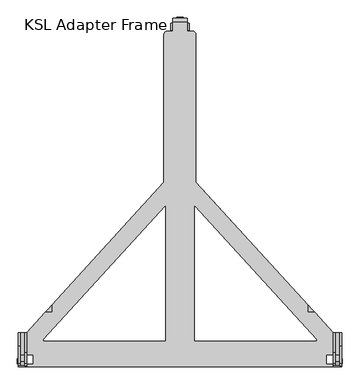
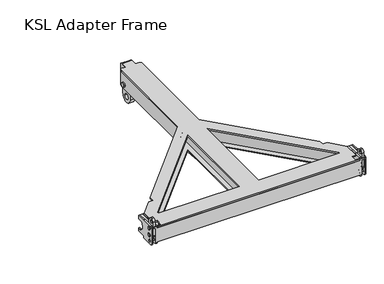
"""IFC4 building model written with IfcOpenShell, lengths in millimetres: proxy geometry, d&b SL-Series KSL Adapter Frame : KSL Adapter Frame."""

from ifc_helpers import new_model, si_unit, point, frame, frame_2d, origin, place, context, project, spatial, polyline, circle_curve, trimmed, segment, composite_curve, outline, extrude, source, transform, mapped, element, save
from ifc_brep_helpers import plane_surface, cylinder_surface, revolved_surface, advanced_brep


def ksl_adapter_frame_febc720b(model_context):
    return source(origin(), model_context, "Body", "SolidModel", [
        extrude(outline(composite_curve([segment(polyline([(23.8849766, 127.0), (23.8849766, 69.0)]), True, "CONTINUOUS"), segment(trimmed(circle_curve(frame_2d((11.8849766, 69.0)), 12.0), [point((23.8849766, 69.0))], [point((11.8849766, 57.0))], False, "CARTESIAN"), True, "CONTINUOUS"), segment(polyline([(11.8849766, 57.0), (6.8849766, 57.0)]), True, "CONTINUOUS"), segment(trimmed(circle_curve(frame_2d((6.8849766, 69.0)), 12.0), [point((6.8849766, 57.0))], [point((-5.1150234, 69.0))], False, "CARTESIAN"), True, "CONTINUOUS"), segment(polyline([(-5.1150234, 69.0), (-5.1150234, 132.0165791)]), True, "CONTINUOUS"), segment(trimmed(circle_curve(frame_2d((6.8849766, 132.0165791)), 12.0), [point((-5.1150234, 132.0165791))], [point((6.9247006, 144.0165134))], False, "CARTESIAN"), True, "CONTINUOUS"), segment(trimmed(circle_curve(frame_2d((6.86837, 127.0)), 17.0166066), [point((6.9247006, 144.0165134))], [point((23.8849766, 127.0))], False, "CARTESIAN"), True, "CONTINUOUS")], self_intersect=False), holes=[composite_curve([segment(trimmed(circle_curve(frame_2d((6.8733645, 69.9972931)), 5.15), [point((12.0233645, 69.9972931))], [point((1.7233645, 69.9972931))], True, "CARTESIAN"), True, "CONTINUOUS"), segment(trimmed(circle_curve(frame_2d((6.8733645, 69.9972931)), 5.15), [point((1.7233645, 69.9972931))], [point((12.0233645, 69.9972931))], True, "CARTESIAN"), True, "CONTINUOUS")], self_intersect=False), composite_curve([segment(trimmed(circle_curve(frame_2d((6.8849766, 132.0)), 5.15), [point((12.0349766, 132.0))], [point((1.7349766, 132.0))], True, "CARTESIAN"), True, "CONTINUOUS"), segment(polyline([(1.7349766, 132.0), (1.7349766, 130.0)]), True, "CONTINUOUS"), segment(trimmed(circle_curve(frame_2d((6.8849766, 130.0)), 5.15), [point((1.7349766, 130.0))], [point((12.0349766, 130.0))], True, "CARTESIAN"), True, "CONTINUOUS"), segment(polyline([(12.0349766, 130.0), (12.0349766, 132.0)]), True, "CONTINUOUS")], self_intersect=False)]), frame((1458.5, 0.0, 0.0), z_axis=(1.0, 0.0, 0.0), x_axis=(0.0, 1.0, 0.0)), (0.0, 0.0, 1.0), 10.0),
        extrude(outline(composite_curve([segment(trimmed(circle_curve(frame_2d((6.8733645, 100.9643839)), 7.2), [point((-0.3266355, 100.9643839))], [point((14.0733645, 100.9643839))], False, "CARTESIAN"), True, "CONTINUOUS"), segment(trimmed(circle_curve(frame_2d((6.8733645, 100.9643839)), 7.2), [point((14.0733645, 100.9643839))], [point((-0.3266355, 100.9643839))], False, "CARTESIAN"), True, "CONTINUOUS")], self_intersect=False)), frame((1475.75, 0.0, 0.0), z_axis=(1.0, 0.0, 0.0), x_axis=(0.0, 1.0, 0.0)), (0.0, 0.0, 1.0), 2.5),
        extrude(outline(composite_curve([segment(trimmed(circle_curve(frame_2d((6.8733645, 69.953061)), 7.2), [point((-0.3266355, 69.953061))], [point((14.0733645, 69.953061))], False, "CARTESIAN"), True, "CONTINUOUS"), segment(trimmed(circle_curve(frame_2d((6.8733645, 69.953061)), 7.2), [point((14.0733645, 69.953061))], [point((-0.3266355, 69.953061))], False, "CARTESIAN"), True, "CONTINUOUS")], self_intersect=False)), frame((1475.75, 0.0, 0.0), z_axis=(1.0, 0.0, 0.0), x_axis=(0.0, 1.0, 0.0)), (0.0, 0.0, 1.0), 2.5),
        extrude(outline(composite_curve([segment(polyline([(23.8849766, 127.0), (23.8849766, 69.0)]), True, "CONTINUOUS"), segment(trimmed(circle_curve(frame_2d((11.8849766, 69.0)), 12.0), [point((23.8849766, 69.0))], [point((11.8849766, 57.0))], False, "CARTESIAN"), True, "CONTINUOUS"), segment(polyline([(11.8849766, 57.0), (6.8849766, 57.0)]), True, "CONTINUOUS"), segment(trimmed(circle_curve(frame_2d((6.8849766, 69.0)), 12.0), [point((6.8849766, 57.0))], [point((-5.1150234, 69.0))], False, "CARTESIAN"), True, "CONTINUOUS"), segment(polyline([(-5.1150234, 69.0), (-5.1150234, 132.0165791)]), True, "CONTINUOUS"), segment(trimmed(circle_curve(frame_2d((6.8849766, 132.0165791)), 12.0), [point((-5.1150234, 132.0165791))], [point((6.9247006, 144.0165134))], False, "CARTESIAN"), True, "CONTINUOUS"), segment(trimmed(circle_curve(frame_2d((6.86837, 127.0)), 17.0166066), [point((6.9247006, 144.0165134))], [point((23.8849766, 127.0))], False, "CARTESIAN"), True, "CONTINUOUS")], self_intersect=False), holes=[composite_curve([segment(trimmed(circle_curve(frame_2d((6.8733645, 69.9972931)), 5.15), [point((12.0233645, 69.9972931))], [point((1.7233645, 69.9972931))], True, "CARTESIAN"), True, "CONTINUOUS"), segment(trimmed(circle_curve(frame_2d((6.8733645, 69.9972931)), 5.15), [point((1.7233645, 69.9972931))], [point((12.0233645, 69.9972931))], True, "CARTESIAN"), True, "CONTINUOUS")], self_intersect=False), composite_curve([segment(trimmed(circle_curve(frame_2d((6.8849766, 132.0)), 5.15), [point((12.0349766, 132.0))], [point((1.7349766, 132.0))], True, "CARTESIAN"), True, "CONTINUOUS"), segment(polyline([(1.7349766, 132.0), (1.7349766, 130.0)]), True, "CONTINUOUS"), segment(trimmed(circle_curve(frame_2d((6.8849766, 130.0)), 5.15), [point((1.7349766, 130.0))], [point((12.0349766, 130.0))], True, "CARTESIAN"), True, "CONTINUOUS"), segment(polyline([(12.0349766, 130.0), (12.0349766, 132.0)]), True, "CONTINUOUS")], self_intersect=False)]), frame((531.5, 0.0, 0.0), z_axis=(1.0, 0.0, 0.0), x_axis=(0.0, 1.0, 0.0)), (0.0, 0.0, 1.0), 10.0),
        extrude(outline(composite_curve([segment(trimmed(circle_curve(frame_2d((990.8849766, 19.75)), 10.0), [point((1000.8849766, 19.75))], [point((980.8849766, 19.75))], False, "CARTESIAN"), True, "CONTINUOUS"), segment(trimmed(circle_curve(frame_2d((990.8849766, 19.75)), 10.0), [point((980.8849766, 19.75))], [point((1000.8849766, 19.75))], False, "CARTESIAN"), True, "CONTINUOUS")], self_intersect=False)), frame((1021.25, 0.0, 0.0), z_axis=(1.0, 0.0, 0.0), x_axis=(0.0, 1.0, 0.0)), (0.0, 0.0, 1.0), 6.0),
        extrude(outline(composite_curve([segment(trimmed(circle_curve(frame_2d((990.8849766, 19.75)), 10.0), [point((1000.8849766, 19.75))], [point((980.8849766, 19.75))], False, "CARTESIAN"), True, "CONTINUOUS"), segment(trimmed(circle_curve(frame_2d((990.8849766, 19.75)), 10.0), [point((980.8849766, 19.75))], [point((1000.8849766, 19.75))], False, "CARTESIAN"), True, "CONTINUOUS")], self_intersect=False)), frame((972.75, 0.0, 0.0), z_axis=(1.0, 0.0, 0.0), x_axis=(0.0, 1.0, 0.0)), (0.0, 0.0, 1.0), 6.0),
        advanced_brep(
        [(1021.2819877, 499.5530699, 0.0), (1021.2819877, 1005.8849766, 0.0), (1021.2819877, 1015.8849766, 10.0), (1021.2819877, 1015.8849766, 100.0), (1021.2819877, 1005.8849766, 110.0), (1021.2819877, 1005.8849766, 104.0), (1021.2819877, -3.1150234, 104.0), (1021.2819877, -3.1150234, 41.0), (1021.2819877, 96.6349766, 41.0), (1021.2819877, 514.8849766, 41.0), (1021.2819877, 514.8849766, 37.0), (1021.2819877, 96.8849766, 37.0), (978.75, 499.5530699, 0.0), (978.75, 96.8849766, 37.0), (978.75, 514.8849766, 37.0), (978.75, 514.8849766, 41.0), (978.75, 96.6349766, 41.0), (978.75, -3.1150234, 41.0), (978.75, -3.1150234, 104.0), (978.75, 1005.8849766, 104.0), (978.75, 1005.8849766, 110.0), (978.75, 1015.8849766, 100.0), (978.75, 1015.8849766, 10.0), (978.75, 1005.8849766, 0.0), (990.0, 1005.8849766, 0.0), (990.0, 963.3849766, 0.0), (1010.0, 963.3849766, 0.0), (1010.0, 1005.8849766, 0.0), (1010.0, 1015.8849766, 10.0), (990.0, 1015.8849766, 10.0), (1010.0, 1015.8849766, 31.2064392), (990.0, 1015.8849766, 31.2064392), (1021.2819877, 514.8849766, 37.0), (978.75, 514.8849766, 37.0), (1021.2819877, 514.8849766, 41.0), (978.75, 514.8849766, 41.0), (548.75, -3.1150234, 104.0), (548.75, -9.1150234, 104.0), (1451.25, -9.1150234, 104.0), (1451.25, -3.1150234, 104.0), (1039.4163262, 501.7650377, 104.0), (1442.8195061, 60.0789221, 104.0), (1445.6508339, 62.9102499, 104.0), (1042.247654, 504.5963655, 104.0), (960.5836738, 501.7650377, 104.0), (957.752346, 504.5963655, 104.0), (554.3491661, 62.9102499, 104.0), (557.1804939, 60.0789221, 104.0), (1021.2819877, 96.6349766, 41.0), (978.7241721, 96.6349766, 41.0), (568.75, -3.1150234, 41.0), (568.75, -3.1150234, 37.0), (548.75, -3.1150234, 37.0), (548.75, -9.1150234, 110.0), (524.25, -9.1150234, 110.0), (524.25, -9.1150234, 36.0), (530.25, -9.1150234, 36.0), (530.25, -9.1150234, 104.0), (542.75, -9.1150234, 104.0), (542.75, -9.1150234, 36.0), (548.75, -9.1150234, 36.0), (548.75, -9.1150234, 37.0), (1451.25, -9.1150234, 37.0), (1451.25, -9.1150234, 36.0), (1457.25, -9.1150234, 36.0), (1457.25, -9.1150234, 104.0), (1469.75, -9.1150234, 104.0), (1469.75, -9.1150234, 36.0), (1475.75, -9.1150234, 36.0), (1475.75, -9.1150234, 110.0), (1451.25, -9.1150234, 110.0), (1451.25, -3.1150234, 37.0), (1431.25, -3.1150234, 37.0), (1431.25, -3.1150234, 41.0), (1039.4163262, 501.7650377, 41.0), (1442.8195061, 60.0789221, 41.0), (1445.6508339, 62.9102499, 41.0), (1042.247654, 504.5963655, 41.0), (960.5836738, 501.7650377, 41.0), (957.752346, 504.5963655, 41.0), (554.3491661, 62.9102499, 41.0), (557.1804939, 60.0789221, 41.0), (1010.0, 963.3849766, -40.25), (1010.0, 1018.3849766, -40.25), (1010.0, 1018.3849766, 19.75), (1010.0, 1003.1929564, -40.25), (1010.0, 978.5769968, -40.25), (990.0, 1018.3849766, 19.75), (990.0, 1018.3849766, -40.25), (990.0, 963.3849766, -40.25), (990.0, 1003.1929564, -40.25), (990.0, 978.5769968, -40.25), (1064.0, 514.8849766, 37.0), (1451.25, 90.8849766, 37.0), (1475.75, 90.8849766, 37.0), (1475.75, 50.6349766, 37.0), (1469.75, 50.6349766, 37.0), (1469.75, 24.8849766, 37.0), (1457.25, 24.8849766, 37.0), (1457.25, 50.6349766, 37.0), (1451.25, 50.6349766, 37.0), (1451.25, 24.8849766, 37.0), (1431.25, 24.8849766, 37.0), (568.75, 24.8849766, 37.0), (548.75, 24.8849766, 37.0), (548.75, 50.6349766, 37.0), (542.75, 50.6349766, 37.0), (542.75, 24.8849766, 37.0), (530.25, 24.8849766, 37.0), (530.25, 50.6349766, 37.0), (524.25, 50.6349766, 37.0), (524.25, 90.8849766, 37.0), (548.75, 90.8849766, 37.0), (936.0, 514.8849766, 37.0), (978.7180123, 96.6349766, 37.0), (1021.2819877, 96.6349766, 37.0), (1043.7383818, 462.927566, 37.0), (1043.7383818, 66.8849766, 37.0), (1401.25, 66.8849766, 37.0), (1401.25, 71.4881183, 37.0), (956.2616182, 462.927566, 37.0), (598.75, 71.4881183, 37.0), (598.75, 66.8849766, 37.0), (956.2616182, 66.8849766, 37.0), (1064.0, 514.8849766, 41.0), (1431.25, 24.8849766, 41.0), (1451.25, 24.8849766, 41.0), (1451.25, 90.8849766, 41.0), (1043.7383818, 462.927566, 41.0), (1401.25, 71.4881183, 41.0), (1401.25, 66.8849766, 41.0), (1043.7383818, 66.8849766, 41.0), (936.0, 514.8849766, 41.0), (548.75, 90.8849766, 41.0), (548.75, 24.8849766, 41.0), (568.75, 24.8849766, 41.0), (956.2616182, 462.927566, 41.0), (956.2616182, 66.8849766, 41.0), (598.75, 66.8849766, 41.0), (598.75, 71.4881183, 41.0), (542.75, 90.8849766, 41.0), (530.25, 90.8849766, 41.0), (530.25, 24.8849766, 41.0), (542.75, 24.8849766, 41.0), (1457.25, 24.8849766, 41.0), (1469.75, 24.8849766, 41.0), (1469.75, 90.8849766, 41.0), (1457.25, 90.8849766, 41.0), (542.75, 90.8849766, 51.0), (548.75, 90.8849766, 51.0), (524.25, 90.8849766, 51.0), (530.25, 90.8849766, 51.0), (1469.75, 90.8849766, 51.0), (1475.75, 90.8849766, 51.0), (1451.25, 90.8849766, 51.0), (1457.25, 90.8849766, 51.0), (1469.75, -6.2300558, 110.0), (1469.75, 0.9304496, 113.0), (1469.75, 50.6349766, 113.0), (1469.75, 50.6349766, 110.0), (1469.75, 90.8849766, 110.0), (1469.75, 90.8849766, 94.0), (1469.75, 80.8849766, 94.0), (1469.75, 80.8849766, 51.0), (1469.75, 50.6349766, 28.0), (1469.75, -1.1150234, 28.0), (1469.75, -5.1150234, 104.0), (1469.75, -5.1150234, 110.0), (1469.75, 1.7233645, 41.9375), (1469.75, 12.0233645, 41.9375), (1475.75, -1.1150234, 28.0), (1475.75, 50.6349766, 28.0), (1475.75, 80.8849766, 51.0), (1475.75, 80.8849766, 94.0), (1475.75, 90.8849766, 94.0), (1475.75, 90.8849766, 110.0), (1475.75, 50.6349766, 110.0), (1475.75, 50.6349766, 113.0), (1475.75, 0.9304496, 113.0), (1475.75, -6.2300558, 110.0), (1475.75, 1.7233645, 41.9375), (1475.75, 12.0233645, 41.9375), (1457.25, -5.1150234, 110.0), (1457.25, -6.2300558, 110.0), (1451.25, -6.2300558, 110.0), (1451.25, 0.9304496, 113.0), (1451.25, 31.6349766, 113.0), (1451.25, 31.6349766, 110.0), (1451.25, 90.8849766, 110.0), (1451.25, 90.8849766, 94.0), (1451.25, 80.8849766, 94.0), (1451.25, 80.8849766, 51.0), (1451.25, 50.6349766, 28.0), (1451.25, -1.1150234, 28.0), (1451.25, 1.7233645, 41.9375), (1451.25, 12.0233645, 41.9375), (1457.25, -1.1150234, 28.0), (1457.25, 50.6349766, 28.0), (1457.25, 80.8849766, 51.0), (1457.25, 80.8849766, 94.0), (1457.25, 90.8849766, 94.0), (1457.25, 90.8849766, 110.0), (1457.25, 31.6349766, 110.0), (1457.25, 31.6349766, 113.0), (1457.25, 0.9304496, 113.0), (1457.25, -5.1150234, 104.0), (1457.25, 1.7233645, 41.9375), (1457.25, 12.0233645, 41.9375), (548.75, -1.1150234, 28.0), (548.75, 50.6349766, 28.0), (548.75, 80.8849766, 51.0), (548.75, 80.8849766, 94.0), (548.75, 90.8849766, 94.0), (548.75, 90.8849766, 110.0), (548.75, 31.6349766, 110.0), (548.75, 31.6349766, 113.0), (548.75, 0.9304496, 113.0), (548.75, -6.2300558, 110.0), (548.75, 1.7233645, 41.9375), (548.75, 12.0233645, 41.9375), (542.75, -6.2300558, 110.0), (542.75, 0.9304496, 113.0), (542.75, 31.6349766, 113.0), (542.75, 31.6349766, 110.0), (542.75, 90.8849766, 110.0), (542.75, 90.8849766, 94.0), (542.75, 80.8849766, 94.0), (542.75, 80.8849766, 51.0), (542.75, 50.6349766, 28.0), (542.75, -1.1150234, 28.0), (542.75, -5.1150234, 104.0), (542.75, -5.1150234, 110.0), (542.75, 1.7233645, 41.9375), (542.75, 12.0233645, 41.9375), (530.25, -5.1150234, 110.0), (530.25, -6.2300558, 110.0), (524.25, -6.2300558, 110.0), (530.25, -1.1150234, 28.0), (530.25, 50.6349766, 28.0), (530.25, 80.8849766, 51.0), (530.25, 80.8849766, 94.0), (530.25, 90.8849766, 94.0), (530.25, 90.8849766, 110.0), (530.25, 50.6349766, 110.0), (530.25, 50.6349766, 113.0), (530.25, 0.9304496, 113.0), (530.25, -5.1150234, 104.0), (530.25, 1.7233645, 41.9375), (530.25, 12.0233645, 41.9375), (524.25, 0.9304496, 113.0), (524.25, 50.6349766, 113.0), (524.25, 50.6349766, 110.0), (524.25, 90.8849766, 110.0), (524.25, 90.8849766, 94.0), (524.25, 80.8849766, 94.0), (524.25, 80.8849766, 51.0), (524.25, 50.6349766, 28.0), (524.25, -1.1150234, 28.0), (524.25, 1.7233645, 41.9375), (524.25, 12.0233645, 41.9375)],
        [
            (0, 1),
            (1, 2, circle_curve(frame((1021.2819877, 1005.8849766, 10.0), z_axis=(1.0, 0.0, 0.0), x_axis=(0.0, -1.0, 0.0)), 10.0)),
            (2, 3),
            (3, 4, circle_curve(frame((1021.2819877, 1005.8849766, 100.0), z_axis=(1.0, 0.0, 0.0), x_axis=(0.0, -1.0, 0.0)), 10.0)),
            (4, 5),
            (5, 6),
            (6, 7),
            (7, 8),
            (8, 9),
            (9, 10),
            (10, 11),
            (11, 0),
            (12, 13),
            (13, 14),
            (14, 15),
            (15, 16),
            (16, 17),
            (17, 18),
            (18, 19),
            (19, 20),
            (20, 21, circle_curve(frame((978.75, 1005.8849766, 100.0), z_axis=(-1.0, 0.0, 0.0), x_axis=(0.0, -1.0, 0.0)), 10.0)),
            (21, 22),
            (22, 23, circle_curve(frame((978.75, 1005.8849766, 10.0), z_axis=(-1.0, 0.0, 0.0), x_axis=(0.0, -1.0, 0.0)), 10.0)),
            (23, 12),
            (0, 12),
            (23, 24),
            (24, 25),
            (25, 26),
            (26, 27),
            (27, 1),
            (27, 28, circle_curve(frame((1010.0, 1005.8849766, 10.0), z_axis=(1.0, 0.0, 0.0), x_axis=(0.0, -1.0, 0.0)), 10.0)),
            (28, 2),
            (22, 29),
            (29, 24, circle_curve(frame((990.0, 1005.8849766, 10.0), z_axis=(-1.0, 0.0, 0.0), x_axis=(0.0, -1.0, 0.0)), 10.0)),
            (28, 30),
            (30, 31),
            (31, 29),
            (21, 3),
            (20, 4),
            (19, 5),
            (11, 13),
            (11, 32),
            (32, 33),
            (33, 13),
            (32, 34),
            (34, 35),
            (35, 33),
            (18, 36),
            (36, 37),
            (37, 38),
            (38, 39),
            (39, 6),
            (40, 41),
            (41, 42),
            (42, 43),
            (43, 40),
            (44, 45),
            (45, 46),
            (46, 47),
            (47, 44),
            (34, 48),
            (48, 49),
            (49, 35),
            (17, 50),
            (50, 51),
            (51, 52),
            (52, 36),
            (37, 53),
            (53, 54),
            (54, 55),
            (55, 56),
            (56, 57),
            (57, 58),
            (58, 59),
            (59, 60),
            (60, 61),
            (61, 62),
            (62, 63),
            (63, 64),
            (64, 65),
            (65, 66),
            (66, 67),
            (67, 68),
            (68, 69),
            (69, 70),
            (70, 38),
            (39, 71),
            (71, 72),
            (72, 73),
            (73, 7),
            (40, 74),
            (74, 75),
            (75, 41),
            (75, 76),
            (76, 42),
            (76, 77),
            (77, 43),
            (77, 74),
            (44, 78),
            (78, 79),
            (79, 45),
            (79, 80),
            (80, 46),
            (80, 81),
            (81, 47),
            (81, 78),
            (82, 83, circle_curve(frame((1010.0, 990.8849766, -40.25), z_axis=(1.0, 0.0, 0.0), x_axis=(0.0, -1.0, 0.0)), 27.5)),
            (83, 84),
            (84, 30, circle_curve(frame((1010.0, 990.8849766, 19.75), z_axis=(1.0, 0.0, 0.0), x_axis=(0.0, -1.0, 0.0)), 27.5)),
            (26, 82),
            (85, 86, circle_curve(frame((1010.0, 990.8849766, -40.25), z_axis=(-1.0, 0.0, 0.0), x_axis=(0.0, -1.0, 0.0)), 12.3079798)),
            (86, 85, circle_curve(frame((1010.0, 990.8849766, -40.25), z_axis=(-1.0, 0.0, 0.0), x_axis=(0.0, -1.0, 0.0)), 12.3079798)),
            (87, 88),
            (88, 89, circle_curve(frame((990.0, 990.8849766, -40.25), z_axis=(-1.0, 0.0, 0.0), x_axis=(0.0, -1.0, 0.0)), 27.5)),
            (89, 25),
            (31, 87, circle_curve(frame((990.0, 990.8849766, 19.75), z_axis=(-1.0, 0.0, 0.0), x_axis=(0.0, -1.0, 0.0)), 27.5)),
            (90, 91, circle_curve(frame((990.0, 990.8849766, -40.25), z_axis=(1.0, 0.0, 0.0), x_axis=(0.0, -1.0, 0.0)), 12.3079798)),
            (91, 90, circle_curve(frame((990.0, 990.8849766, -40.25), z_axis=(1.0, 0.0, 0.0), x_axis=(0.0, -1.0, 0.0)), 12.3079798)),
            (89, 82),
            (88, 83),
            (87, 84),
            (85, 90),
            (91, 86),
            (92, 93),
            (93, 94),
            (94, 95),
            (95, 96),
            (96, 97),
            (97, 98),
            (98, 99),
            (99, 100),
            (100, 101),
            (101, 102),
            (102, 72),
            (71, 62),
            (61, 52),
            (51, 103),
            (103, 104),
            (104, 105),
            (105, 106),
            (106, 107),
            (107, 108),
            (108, 109),
            (109, 110),
            (110, 111),
            (111, 112),
            (112, 113),
            (113, 14),
            (13, 114),
            (114, 115),
            (115, 11),
            (10, 92),
            (116, 117),
            (117, 118),
            (118, 119),
            (119, 116),
            (120, 121),
            (121, 122),
            (122, 123),
            (123, 120),
            (124, 9),
            (73, 125),
            (125, 126),
            (126, 127),
            (127, 124),
            (128, 129),
            (129, 130),
            (130, 131),
            (131, 128),
            (15, 132),
            (132, 133),
            (133, 134),
            (134, 135),
            (135, 50),
            (136, 137),
            (137, 138),
            (138, 139),
            (139, 136),
            (140, 141),
            (141, 142),
            (142, 143),
            (143, 140),
            (144, 145),
            (145, 146),
            (146, 147),
            (147, 144),
            (119, 129),
            (128, 116),
            (117, 131),
            (130, 118),
            (124, 92),
            (115, 48),
            (114, 49),
            (113, 132),
            (112, 133),
            (140, 148),
            (148, 149),
            (149, 133),
            (111, 150),
            (150, 151),
            (151, 141),
            (103, 135),
            (134, 104),
            (127, 93),
            (123, 137),
            (136, 120),
            (122, 138),
            (121, 139),
            (107, 143),
            (142, 108),
            (102, 125),
            (101, 126),
            (97, 145),
            (144, 98),
            (146, 152),
            (152, 153),
            (153, 94),
            (127, 154),
            (154, 155),
            (155, 147),
            (156, 157, circle_curve(frame((1469.75, 0.9304496, 102.954527), z_axis=(-1.0, 0.0, 0.0), x_axis=(0.0, 1.0, 0.0)), 10.045473)),
            (157, 158),
            (158, 159),
            (159, 160),
            (160, 161),
            (161, 162),
            (162, 163, circle_curve(frame((1469.75, 80.8849766, 72.5), z_axis=(1.0, 0.0, 0.0), x_axis=(0.0, -1.0, 0.0)), 21.5)),
            (163, 152),
            (96, 164),
            (164, 165),
            (165, 67, circle_curve(frame((1469.75, -1.1150234, 36.0), z_axis=(-1.0, 0.0, 0.0), x_axis=(0.0, 1.0, 0.0)), 8.0)),
            (66, 166),
            (166, 167),
            (167, 156),
            (168, 169, circle_curve(frame((1469.75, 6.8733645, 41.9375), z_axis=(1.0, 0.0, 0.0), x_axis=(0.0, 1.0, 0.0)), 5.15)),
            (169, 168, circle_curve(frame((1469.75, 6.8733645, 41.9375), z_axis=(1.0, 0.0, 0.0), x_axis=(0.0, 1.0, 0.0)), 5.15)),
            (68, 170, circle_curve(frame((1475.75, -1.1150234, 36.0), z_axis=(1.0, 0.0, 0.0), x_axis=(0.0, 1.0, 0.0)), 8.0)),
            (170, 171),
            (171, 95),
            (153, 172),
            (172, 173, circle_curve(frame((1475.75, 80.8849766, 72.5), z_axis=(-1.0, 0.0, 0.0), x_axis=(0.0, -1.0, 0.0)), 21.5)),
            (173, 174),
            (174, 175),
            (175, 176),
            (176, 177),
            (177, 178),
            (178, 179, circle_curve(frame((1475.75, 0.9304496, 102.954527), z_axis=(1.0, 0.0, 0.0), x_axis=(0.0, 1.0, 0.0)), 10.045473)),
            (179, 69),
            (180, 181, circle_curve(frame((1475.75, 6.8733645, 41.9375), z_axis=(-1.0, 0.0, 0.0), x_axis=(0.0, 1.0, 0.0)), 5.15)),
            (181, 180, circle_curve(frame((1475.75, 6.8733645, 41.9375), z_axis=(-1.0, 0.0, 0.0), x_axis=(0.0, 1.0, 0.0)), 5.15)),
            (165, 170),
            (164, 171),
            (163, 172),
            (162, 173),
            (161, 174),
            (160, 175),
            (159, 176),
            (158, 177),
            (157, 178),
            (156, 179),
            (167, 182),
            (182, 183),
            (183, 184),
            (184, 70),
            (169, 181),
            (180, 168),
            (184, 185, circle_curve(frame((1451.25, 0.9304496, 102.954527), z_axis=(-1.0, 0.0, 0.0), x_axis=(0.0, 1.0, 0.0)), 10.045473)),
            (185, 186),
            (186, 187),
            (187, 188),
            (188, 189),
            (189, 190),
            (190, 191, circle_curve(frame((1451.25, 80.8849766, 72.5), z_axis=(1.0, 0.0, 0.0), x_axis=(0.0, -1.0, 0.0)), 21.5)),
            (191, 154),
            (100, 192),
            (192, 193),
            (193, 63, circle_curve(frame((1451.25, -1.1150234, 36.0), z_axis=(-1.0, 0.0, 0.0), x_axis=(0.0, 1.0, 0.0)), 8.0)),
            (194, 195, circle_curve(frame((1451.25, 6.8733645, 41.9375), z_axis=(1.0, 0.0, 0.0), x_axis=(0.0, 1.0, 0.0)), 5.15)),
            (195, 194, circle_curve(frame((1451.25, 6.8733645, 41.9375), z_axis=(1.0, 0.0, 0.0), x_axis=(0.0, 1.0, 0.0)), 5.15)),
            (64, 196, circle_curve(frame((1457.25, -1.1150234, 36.0), z_axis=(1.0, 0.0, 0.0), x_axis=(0.0, 1.0, 0.0)), 8.0)),
            (196, 197),
            (197, 99),
            (155, 198),
            (198, 199, circle_curve(frame((1457.25, 80.8849766, 72.5), z_axis=(-1.0, 0.0, 0.0), x_axis=(0.0, -1.0, 0.0)), 21.5)),
            (199, 200),
            (200, 201),
            (201, 202),
            (202, 203),
            (203, 204),
            (204, 183, circle_curve(frame((1457.25, 0.9304496, 102.954527), z_axis=(1.0, 0.0, 0.0), x_axis=(0.0, 1.0, 0.0)), 10.045473)),
            (182, 205),
            (205, 65),
            (206, 207, circle_curve(frame((1457.25, 6.8733645, 41.9375), z_axis=(-1.0, 0.0, 0.0), x_axis=(0.0, 1.0, 0.0)), 5.15)),
            (207, 206, circle_curve(frame((1457.25, 6.8733645, 41.9375), z_axis=(-1.0, 0.0, 0.0), x_axis=(0.0, 1.0, 0.0)), 5.15)),
            (193, 196),
            (192, 197),
            (191, 198),
            (190, 199),
            (189, 200),
            (188, 201),
            (187, 202),
            (186, 203),
            (185, 204),
            (195, 207),
            (206, 194),
            (205, 166),
            (60, 208, circle_curve(frame((548.75, -1.1150234, 36.0), z_axis=(1.0, 0.0, 0.0), x_axis=(0.0, 1.0, 0.0)), 8.0)),
            (208, 209),
            (209, 105),
            (149, 210),
            (210, 211, circle_curve(frame((548.75, 80.8849766, 72.5), z_axis=(-1.0, 0.0, 0.0), x_axis=(0.0, -1.0, 0.0)), 21.5)),
            (211, 212),
            (212, 213),
            (213, 214),
            (214, 215),
            (215, 216),
            (216, 217, circle_curve(frame((548.75, 0.9304496, 102.954527), z_axis=(1.0, 0.0, 0.0), x_axis=(0.0, 1.0, 0.0)), 10.045473)),
            (217, 53),
            (218, 219, circle_curve(frame((548.75, 6.8733645, 41.9375), z_axis=(-1.0, 0.0, 0.0), x_axis=(0.0, 1.0, 0.0)), 5.15)),
            (219, 218, circle_curve(frame((548.75, 6.8733645, 41.9375), z_axis=(-1.0, 0.0, 0.0), x_axis=(0.0, 1.0, 0.0)), 5.15)),
            (220, 221, circle_curve(frame((542.75, 0.9304496, 102.954527), z_axis=(-1.0, 0.0, 0.0), x_axis=(0.0, 1.0, 0.0)), 10.045473)),
            (221, 222),
            (222, 223),
            (223, 224),
            (224, 225),
            (225, 226),
            (226, 227, circle_curve(frame((542.75, 80.8849766, 72.5), z_axis=(1.0, 0.0, 0.0), x_axis=(0.0, -1.0, 0.0)), 21.5)),
            (227, 148),
            (106, 228),
            (228, 229),
            (229, 59, circle_curve(frame((542.75, -1.1150234, 36.0), z_axis=(-1.0, 0.0, 0.0), x_axis=(0.0, 1.0, 0.0)), 8.0)),
            (58, 230),
            (230, 231),
            (231, 220),
            (232, 233, circle_curve(frame((542.75, 6.8733645, 41.9375), z_axis=(1.0, 0.0, 0.0), x_axis=(0.0, 1.0, 0.0)), 5.15)),
            (233, 232, circle_curve(frame((542.75, 6.8733645, 41.9375), z_axis=(1.0, 0.0, 0.0), x_axis=(0.0, 1.0, 0.0)), 5.15)),
            (229, 208),
            (228, 209),
            (227, 210),
            (226, 211),
            (225, 212),
            (224, 213),
            (223, 214),
            (222, 215),
            (221, 216),
            (220, 217),
            (231, 234),
            (234, 235),
            (235, 236),
            (236, 54),
            (218, 232),
            (233, 219),
            (56, 237, circle_curve(frame((530.25, -1.1150234, 36.0), z_axis=(1.0, 0.0, 0.0), x_axis=(0.0, 1.0, 0.0)), 8.0)),
            (237, 238),
            (238, 109),
            (151, 239),
            (239, 240, circle_curve(frame((530.25, 80.8849766, 72.5), z_axis=(-1.0, 0.0, 0.0), x_axis=(0.0, -1.0, 0.0)), 21.5)),
            (240, 241),
            (241, 242),
            (242, 243),
            (243, 244),
            (244, 245),
            (245, 235, circle_curve(frame((530.25, 0.9304496, 102.954527), z_axis=(1.0, 0.0, 0.0), x_axis=(0.0, 1.0, 0.0)), 10.045473)),
            (234, 246),
            (246, 57),
            (247, 248, circle_curve(frame((530.25, 6.8733645, 41.9375), z_axis=(-1.0, 0.0, 0.0), x_axis=(0.0, 1.0, 0.0)), 5.15)),
            (248, 247, circle_curve(frame((530.25, 6.8733645, 41.9375), z_axis=(-1.0, 0.0, 0.0), x_axis=(0.0, 1.0, 0.0)), 5.15)),
            (236, 249, circle_curve(frame((524.25, 0.9304496, 102.954527), z_axis=(-1.0, 0.0, 0.0), x_axis=(0.0, 1.0, 0.0)), 10.045473)),
            (249, 250),
            (250, 251),
            (251, 252),
            (252, 253),
            (253, 254),
            (254, 255, circle_curve(frame((524.25, 80.8849766, 72.5), z_axis=(1.0, 0.0, 0.0), x_axis=(0.0, -1.0, 0.0)), 21.5)),
            (255, 150),
            (110, 256),
            (256, 257),
            (257, 55, circle_curve(frame((524.25, -1.1150234, 36.0), z_axis=(-1.0, 0.0, 0.0), x_axis=(0.0, 1.0, 0.0)), 8.0)),
            (258, 259, circle_curve(frame((524.25, 6.8733645, 41.9375), z_axis=(1.0, 0.0, 0.0), x_axis=(0.0, 1.0, 0.0)), 5.15)),
            (259, 258, circle_curve(frame((524.25, 6.8733645, 41.9375), z_axis=(1.0, 0.0, 0.0), x_axis=(0.0, 1.0, 0.0)), 5.15)),
            (257, 237),
            (256, 238),
            (255, 239),
            (254, 240),
            (253, 241),
            (252, 242),
            (251, 243),
            (250, 244),
            (249, 245),
            (247, 258),
            (259, 248),
            (246, 230),
        ],
        [
            plane_surface(frame((1021.2819877, 500.4700094, 0.0), z_axis=(1.0, 0.0, 0.0), x_axis=(0.0, 1.0, 0.0))),
            plane_surface(frame((978.75, 500.4700094, 0.0), z_axis=(-1.0, 0.0, 0.0), x_axis=(0.0, -1.0, 0.0))),
            plane_surface(frame((1021.2819877, 499.5530699, 0.0), z_axis=(0.0, 0.0, -1.0), x_axis=(-1.0, 0.0, 0.0))),
            cylinder_surface(frame((978.75, 1005.8849766, 10.0), z_axis=(1.0, 0.0, 0.0), x_axis=(0.0, -1.0, 0.0)), 10.0),
            plane_surface(frame((1021.2819877, 1015.8849766, 10.0), z_axis=(0.0, 1.0, 0.0), x_axis=(-1.0, 0.0, 0.0))),
            cylinder_surface(frame((978.75, 1005.8849766, 100.0), z_axis=(1.0, 0.0, 0.0), x_axis=(0.0, -1.0, 0.0)), 10.0),
            plane_surface(frame((1021.2819877, 1005.8849766, 110.0), z_axis=(0.0, -1.0, 0.0), x_axis=(-1.0, 0.0, 0.0))),
            plane_surface(frame((1021.2819877, 96.8849766, 37.0), z_axis=(0.0, -0.09150161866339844, -0.9958049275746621), x_axis=(-1.0, 0.0, 0.0))),
            plane_surface(frame((1021.2819877, 514.8849766, 37.0), z_axis=(0.0, 0.0, 1.0), x_axis=(-1.0, 0.0, 0.0))),
            plane_surface(frame((1021.2819877, 514.8849766, 41.0), z_axis=(0.0, -1.0, 0.0), x_axis=(-1.0, 0.0, 0.0))),
            plane_surface(frame((978.7180123, 96.6349766, 104.0), z_axis=(0.0, 0.0, 1.0), x_axis=(0.0, -1.0, 0.0))),
            plane_surface(frame((978.7180123, 96.6349766, 41.0), z_axis=(0.0, 0.0, -1.0), x_axis=(0.0, 1.0, 0.0))),
            plane_surface(frame((978.7180123, -3.1150234, 104.0), z_axis=(0.0, 1.0, 0.0), x_axis=(0.0, 0.0, -1.0))),
            plane_surface(frame((548.75, -9.1150234, 104.0), z_axis=(0.0, -1.0, 0.0), x_axis=(0.0, 0.0, -1.0))),
            plane_surface(frame((1451.25, -3.1150234, 104.0), z_axis=(0.0, 1.0, 0.0), x_axis=(0.0, 0.0, -1.0))),
            plane_surface(frame((1039.4163262, 501.7650377, 104.0), z_axis=(-0.7383818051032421, -0.6743829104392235, 0.0), x_axis=(0.0, 0.0, -1.0))),
            plane_surface(frame((1442.8195061, 60.0789221, 104.0), z_axis=(0.707106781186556, -0.7071067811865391, 0.0), x_axis=(0.0, 0.0, -1.0))),
            plane_surface(frame((1445.6508339, 62.9102499, 104.0), z_axis=(0.7383818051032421, 0.6743829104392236, 0.0), x_axis=(0.0, 0.0, -1.0))),
            plane_surface(frame((1042.247654, 504.5963655, 104.0), z_axis=(-0.7071067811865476, 0.7071067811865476, 0.0), x_axis=(0.0, 0.0, -1.0))),
            plane_surface(frame((960.5836738, 501.7650377, 104.0), z_axis=(0.7071067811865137, 0.7071067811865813, 0.0), x_axis=(0.0, 0.0, -1.0))),
            plane_surface(frame((957.752346, 504.5963655, 104.0), z_axis=(-0.7383818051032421, 0.6743829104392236, 0.0), x_axis=(0.0, 0.0, -1.0))),
            plane_surface(frame((554.3491661, 62.9102499, 104.0), z_axis=(-0.7071067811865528, -0.7071067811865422, 0.0), x_axis=(0.0, 0.0, -1.0))),
            plane_surface(frame((557.1804939, 60.0789221, 104.0), z_axis=(0.7383818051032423, -0.6743829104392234, 0.0), x_axis=(0.0, 0.0, -1.0))),
            plane_surface(frame((1010.0, 963.3849766, -40.25), z_axis=(1.0, 0.0, 0.0), x_axis=(0.0, 0.0, -1.0))),
            plane_surface(frame((990.0, 963.3849766, -40.25), z_axis=(-1.0, 0.0, 0.0), x_axis=(0.0, 0.0, 1.0))),
            plane_surface(frame((1010.0, 963.3849766, 19.75), z_axis=(0.0, -1.0, 0.0), x_axis=(-1.0, 0.0, 0.0))),
            cylinder_surface(frame((990.0, 990.8849766, -40.25), z_axis=(1.0, 0.0, 0.0), x_axis=(0.0, -1.0, 0.0)), 27.5),
            plane_surface(frame((1010.0, 1018.3849766, -40.25), z_axis=(0.0, 1.0, 0.0), x_axis=(-1.0, 0.0, 0.0))),
            cylinder_surface(frame((990.0, 990.8849766, 19.75), z_axis=(1.0, 0.0, 0.0), x_axis=(0.0, -1.0, 0.0)), 27.5),
            revolved_surface(polyline([(990.0, 978.5769968, -40.25), (1010.0, 978.5769968, -40.25)]), (1000.0, 990.8849766, -40.25), (-1.0, 0.0, 0.0)),
            plane_surface(frame((1400.9883818, 71.7745641, 37.0), z_axis=(0.0, 0.0, -1.0), x_axis=(-0.674382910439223, 0.7383818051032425, 0.0))),
            plane_surface(frame((1400.9883818, 71.7745641, 41.0), z_axis=(0.0, 0.0, 1.0), x_axis=(0.674382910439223, -0.7383818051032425, 0.0))),
            plane_surface(frame((1043.7383818, 462.927566, 41.0), z_axis=(-0.7383818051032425, -0.674382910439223, 0.0), x_axis=(0.0, 0.0, -1.0))),
            plane_surface(frame((1401.25, 66.8849766, 41.0), z_axis=(0.0, 1.0, 0.0), x_axis=(0.0, 0.0, -1.0))),
            plane_surface(frame((1043.7383818, 66.8849766, 41.0), z_axis=(1.0, 0.0, 0.0), x_axis=(0.0, 0.0, -1.0))),
            plane_surface(frame((1064.0, 514.8849766, 41.0), z_axis=(0.0, 1.0, 0.0), x_axis=(0.0, 0.0, -1.0))),
            plane_surface(frame((1021.2819877, 514.8849766, 41.0), z_axis=(-1.0, 0.0, 0.0), x_axis=(0.0, 0.0, -1.0))),
            plane_surface(frame((1021.2819877, 96.6349766, 41.0), z_axis=(0.0, 1.0, 0.0), x_axis=(0.0, 0.0, -1.0))),
            plane_surface(frame((978.7180123, 96.6349766, 41.0), z_axis=(1.0, 0.0, 0.0), x_axis=(0.0, 0.0, -1.0))),
            plane_surface(frame((978.7180123, 514.8849766, 41.0), z_axis=(0.0, 1.0, 0.0), x_axis=(0.0, 0.0, -1.0))),
            plane_surface(frame((936.0, 514.8849766, 41.0), z_axis=(-0.7383818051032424, 0.6743829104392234, 0.0), x_axis=(0.0, 0.0, -1.0))),
            plane_surface(frame((542.75, 90.8849766, 41.0), z_axis=(0.0, 1.0, 0.0), x_axis=(0.0, 0.0, -1.0))),
            plane_surface(frame((548.75, 24.8849766, 41.0), z_axis=(0.0, -1.0, 0.0), x_axis=(0.0, 0.0, -1.0))),
            plane_surface(frame((568.75, 24.8849766, 41.0), z_axis=(-1.0, 0.0, 0.0), x_axis=(0.0, 0.0, -1.0))),
            plane_surface(frame((1451.25, 90.8849766, 41.0), z_axis=(0.7383818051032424, 0.6743829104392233, 0.0), x_axis=(0.0, 0.0, -1.0))),
            plane_surface(frame((956.2616182, 462.927566, 41.0), z_axis=(-1.0, 0.0, 0.0), x_axis=(0.0, 0.0, -1.0))),
            plane_surface(frame((956.2616182, 66.8849766, 41.0), z_axis=(0.0, 1.0, 0.0), x_axis=(0.0, 0.0, -1.0))),
            plane_surface(frame((598.75, 66.8849766, 41.0), z_axis=(1.0, 0.0, 0.0), x_axis=(0.0, 0.0, -1.0))),
            plane_surface(frame((598.75, 71.4881183, 41.0), z_axis=(0.7383818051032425, -0.674382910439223, 0.0), x_axis=(0.0, 0.0, -1.0))),
            plane_surface(frame((530.25, 24.8849766, 41.0), z_axis=(0.0, -1.0, 0.0), x_axis=(0.0, 0.0, -1.0))),
            plane_surface(frame((1401.25, 71.4881183, 41.0), z_axis=(-1.0, 0.0, 0.0), x_axis=(0.0, 0.0, -1.0))),
            plane_surface(frame((1431.25, -3.1150234, 41.0), z_axis=(1.0, 0.0, 0.0), x_axis=(0.0, 0.0, -1.0))),
            plane_surface(frame((1431.25, 24.8849766, 41.0), z_axis=(0.0, -1.0, 0.0), x_axis=(0.0, 0.0, -1.0))),
            plane_surface(frame((1457.25, 24.8849766, 41.0), z_axis=(0.0, -1.0, 0.0), x_axis=(0.0, 0.0, -1.0))),
            plane_surface(frame((1469.75, 90.8849766, 41.0), z_axis=(0.0, 1.0, 0.0), x_axis=(0.0, 0.0, -1.0))),
            plane_surface(frame((1469.75, -9.1150234, 103.0), z_axis=(-1.0, 0.0, 0.0), x_axis=(0.0, 0.0, 1.0))),
            plane_surface(frame((1475.75, -9.1150234, 103.0), z_axis=(1.0, 0.0, 0.0), x_axis=(0.0, 0.0, -1.0))),
            cylinder_surface(frame((1475.75, -1.1150234, 36.0), z_axis=(-1.0, 0.0, 0.0), x_axis=(0.0, 1.0, 0.0)), 8.0),
            plane_surface(frame((1469.75, 50.6349766, 28.0), z_axis=(0.0, 0.0, -1.0), x_axis=(1.0, 0.0, 0.0))),
            plane_surface(frame((1469.75, 50.6349766, 37.0), z_axis=(0.0, 1.0, 0.0), x_axis=(1.0, 0.0, 0.0))),
            plane_surface(frame((1469.75, 80.8849766, 51.0), z_axis=(0.0, 0.0, 1.0), x_axis=(1.0, 0.0, 0.0))),
            revolved_surface(polyline([(1475.75, 59.3849766, 72.5), (1469.75, 59.3849766, 72.5)]), (1475.75, 80.8849766, 72.5), (1.0, 0.0, 0.0)),
            plane_surface(frame((1469.75, 90.8849766, 94.0), z_axis=(0.0, 0.0, -1.0), x_axis=(1.0, 0.0, 0.0))),
            plane_surface(frame((1469.75, 90.8849766, 110.0), z_axis=(0.0, 1.0, 0.0), x_axis=(1.0, 0.0, 0.0))),
            plane_surface(frame((1469.75, 50.6349766, 110.0), z_axis=(0.0, 0.0, 1.0), x_axis=(1.0, 0.0, 0.0))),
            plane_surface(frame((1469.75, 50.6349766, 113.0), z_axis=(0.0, 1.0, 0.0), x_axis=(1.0, 0.0, 0.0))),
            plane_surface(frame((1469.75, 0.9304496, 113.0), z_axis=(0.0, 0.0, 1.0), x_axis=(1.0, 0.0, 0.0))),
            cylinder_surface(frame((1475.75, 0.9304496, 102.954527), z_axis=(-1.0, 0.0, 0.0), x_axis=(0.0, 1.0, 0.0)), 10.045473),
            plane_surface(frame((1469.75, -9.1150234, 110.0), z_axis=(0.0, 0.0, 1.0), x_axis=(1.0, 0.0, 0.0))),
            revolved_surface(polyline([(1475.75, 12.0233645, 41.9375), (1469.75, 12.0233645, 41.9375)]), (1475.75, 6.8733645, 41.9375), (1.0, 0.0, 0.0)),
            plane_surface(frame((1451.25, -9.1150234, 103.0), z_axis=(-1.0, 0.0, 0.0), x_axis=(0.0, 0.0, 1.0))),
            plane_surface(frame((1457.25, -9.1150234, 103.0), z_axis=(1.0, 0.0, 0.0), x_axis=(0.0, 0.0, -1.0))),
            cylinder_surface(frame((1457.25, -1.1150234, 36.0), z_axis=(-1.0, 0.0, 0.0), x_axis=(0.0, 1.0, 0.0)), 8.0),
            plane_surface(frame((1451.25, 50.6349766, 28.0), z_axis=(0.0, 0.0, -1.0), x_axis=(1.0, 0.0, 0.0))),
            plane_surface(frame((1451.25, 50.6349766, 37.0), z_axis=(0.0, 1.0, 0.0), x_axis=(1.0, 0.0, 0.0))),
            plane_surface(frame((1451.25, 80.8849766, 51.0), z_axis=(0.0, 0.0, 1.0), x_axis=(1.0, 0.0, 0.0))),
            revolved_surface(polyline([(1457.25, 59.3849766, 72.5), (1451.25, 59.3849766, 72.5)]), (1457.25, 80.8849766, 72.5), (1.0, 0.0, 0.0)),
            plane_surface(frame((1451.25, 90.8849766, 94.0), z_axis=(0.0, 0.0, -1.0), x_axis=(1.0, 0.0, 0.0))),
            plane_surface(frame((1451.25, 90.8849766, 110.0), z_axis=(0.0, 1.0, 0.0), x_axis=(1.0, 0.0, 0.0))),
            plane_surface(frame((1451.25, 31.6349766, 110.0), z_axis=(0.0, 0.0, 1.0), x_axis=(1.0, 0.0, 0.0))),
            plane_surface(frame((1451.25, 31.6349766, 113.0), z_axis=(0.0, 1.0, 0.0), x_axis=(1.0, 0.0, 0.0))),
            plane_surface(frame((1451.25, 0.9304496, 113.0), z_axis=(0.0, 0.0, 1.0), x_axis=(1.0, 0.0, 0.0))),
            cylinder_surface(frame((1457.25, 0.9304496, 102.954527), z_axis=(-1.0, 0.0, 0.0), x_axis=(0.0, 1.0, 0.0)), 10.045473),
            revolved_surface(polyline([(1457.25, 12.0233645, 41.9375), (1451.25, 12.0233645, 41.9375)]), (1457.25, 6.8733645, 41.9375), (1.0, 0.0, 0.0)),
            plane_surface(frame((1457.25, -5.1150234, 104.0), z_axis=(0.0, 0.0, -1.0), x_axis=(1.0, 0.0, 0.0))),
            plane_surface(frame((1457.25, -5.1150234, 110.0), z_axis=(0.0, 1.0, 0.0), x_axis=(1.0, 0.0, 0.0))),
            plane_surface(frame((548.75, 6.8849766, 36.0), z_axis=(1.0, 0.0, 0.0), x_axis=(0.0, 0.0, 1.0))),
            plane_surface(frame((542.75, 6.8849766, 36.0), z_axis=(-1.0, 0.0, 0.0), x_axis=(0.0, 0.0, -1.0))),
            cylinder_surface(frame((542.75, -1.1150234, 36.0), z_axis=(1.0, 0.0, 0.0), x_axis=(0.0, 1.0, 0.0)), 8.0),
            plane_surface(frame((548.75, -1.1150234, 28.0), z_axis=(0.0, 0.0, -1.0), x_axis=(-1.0, 0.0, 0.0))),
            plane_surface(frame((548.75, 50.6349766, 28.0), z_axis=(0.0, 1.0, 0.0), x_axis=(-1.0, 0.0, 0.0))),
            plane_surface(frame((548.75, 90.8849766, 51.0), z_axis=(0.0, 0.0, 1.0), x_axis=(-1.0, 0.0, 0.0))),
            revolved_surface(polyline([(542.75, 59.3849766, 72.5), (548.75, 59.3849766, 72.5)]), (542.75, 80.8849766, 72.5), (-1.0, 0.0, 0.0)),
            plane_surface(frame((548.75, 80.8849766, 94.0), z_axis=(0.0, 0.0, -1.0), x_axis=(-1.0, 0.0, 0.0))),
            plane_surface(frame((548.75, 90.8849766, 94.0), z_axis=(0.0, 1.0, 0.0), x_axis=(-1.0, 0.0, 0.0))),
            plane_surface(frame((548.75, 90.8849766, 110.0), z_axis=(0.0, 0.0, 1.0), x_axis=(-1.0, 0.0, 0.0))),
            plane_surface(frame((548.75, 31.6349766, 110.0), z_axis=(0.0, 1.0, 0.0), x_axis=(-1.0, 0.0, 0.0))),
            plane_surface(frame((548.75, 31.6349766, 113.0), z_axis=(0.0, 0.0, 1.0), x_axis=(-1.0, 0.0, 0.0))),
            cylinder_surface(frame((542.75, 0.9304496, 102.954527), z_axis=(1.0, 0.0, 0.0), x_axis=(0.0, 1.0, 0.0)), 10.045473),
            plane_surface(frame((548.75, -6.2300558, 110.0), z_axis=(0.0, 0.0, 1.0), x_axis=(-1.0, 0.0, 0.0))),
            revolved_surface(polyline([(542.75, 12.0233645, 41.9375), (548.75, 12.0233645, 41.9375)]), (542.75, 6.8733645, 41.9375), (-1.0, 0.0, 0.0)),
            plane_surface(frame((530.25, 6.8849766, 36.0), z_axis=(1.0, 0.0, 0.0), x_axis=(0.0, 0.0, 1.0))),
            plane_surface(frame((524.25, 6.8849766, 36.0), z_axis=(-1.0, 0.0, 0.0), x_axis=(0.0, 0.0, -1.0))),
            cylinder_surface(frame((524.25, -1.1150234, 36.0), z_axis=(1.0, 0.0, 0.0), x_axis=(0.0, 1.0, 0.0)), 8.0),
            plane_surface(frame((530.25, -1.1150234, 28.0), z_axis=(0.0, 0.0, -1.0), x_axis=(-1.0, 0.0, 0.0))),
            plane_surface(frame((530.25, 50.6349766, 28.0), z_axis=(0.0, 1.0, 0.0), x_axis=(-1.0, 0.0, 0.0))),
            plane_surface(frame((530.25, 90.8849766, 51.0), z_axis=(0.0, 0.0, 1.0), x_axis=(-1.0, 0.0, 0.0))),
            revolved_surface(polyline([(524.25, 59.3849766, 72.5), (530.25, 59.3849766, 72.5)]), (524.25, 80.8849766, 72.5), (-1.0, 0.0, 0.0)),
            plane_surface(frame((530.25, 80.8849766, 94.0), z_axis=(0.0, 0.0, -1.0), x_axis=(-1.0, 0.0, 0.0))),
            plane_surface(frame((530.25, 90.8849766, 94.0), z_axis=(0.0, 1.0, 0.0), x_axis=(-1.0, 0.0, 0.0))),
            plane_surface(frame((530.25, 90.8849766, 110.0), z_axis=(0.0, 0.0, 1.0), x_axis=(-1.0, 0.0, 0.0))),
            plane_surface(frame((530.25, 50.6349766, 110.0), z_axis=(0.0, 1.0, 0.0), x_axis=(-1.0, 0.0, 0.0))),
            plane_surface(frame((530.25, 50.6349766, 113.0), z_axis=(0.0, 0.0, 1.0), x_axis=(-1.0, 0.0, 0.0))),
            cylinder_surface(frame((524.25, 0.9304496, 102.954527), z_axis=(1.0, 0.0, 0.0), x_axis=(0.0, 1.0, 0.0)), 10.045473),
            revolved_surface(polyline([(524.25, 12.0233645, 41.9375), (530.25, 12.0233645, 41.9375)]), (524.25, 6.8733645, 41.9375), (-1.0, 0.0, 0.0)),
            plane_surface(frame((542.75, -9.1150234, 104.0), z_axis=(0.0, 0.0, -1.0), x_axis=(-1.0, 0.0, 0.0))),
            plane_surface(frame((542.75, -5.1150234, 104.0), z_axis=(0.0, 1.0, 0.0), x_axis=(-1.0, 0.0, 0.0))),
        ],
        [
            (0, [[1, 2, 3, 4, 5, 6, 7, 8, 9, 10, 11, 12]]),
            (1, [[13, 14, 15, 16, 17, 18, 19, 20, 21, 22, 23, 24]]),
            (2, [[-1, 25, -24, 26, 27, 28, 29, 30]]),
            (3, [[-2, -30, 31, 32]]),
            (3, [[-23, 33, 34, -26]]),
            (4, [[-3, -32, 35, 36, 37, -33, -22, 38]]),
            (5, [[-4, -38, -21, 39]]),
            (6, [[-39, -20, 40, -5]]),
            (7, [[-12, 41, -13, -25]]),
            (8, [[-41, 42, 43, 44]]),
            (9, [[-43, 45, 46, 47]]),
            (10, [[-19, 48, 49, 50, 51, 52, -6, -40]]),
            (10, [[53, 54, 55, 56]]),
            (10, [[57, 58, 59, 60]]),
            (11, [[-46, 61, 62, 63]]),
            (12, [[-48, -18, 64, 65, 66, 67]]),
            (13, [[-50, 68, 69, 70, 71, 72, 73, 74, 75, 76, 77, 78, 79, 80, 81, 82, 83, 84, 85, 86]]),
            (14, [[-52, 87, 88, 89, 90, -7]]),
            (15, [[-53, 91, 92, 93]]),
            (16, [[-54, -93, 94, 95]]),
            (17, [[-55, -95, 96, 97]]),
            (18, [[-56, -97, 98, -91]]),
            (19, [[-57, 99, 100, 101]]),
            (20, [[-58, -101, 102, 103]]),
            (21, [[-59, -103, 104, 105]]),
            (22, [[-60, -105, 106, -99]]),
            (23, [[107, 108, 109, -35, -31, -29, 110], [111, 112]]),
            (24, [[113, 114, 115, -27, -34, -37, 116], [117, 118]]),
            (25, [[119, -110, -28, -115]]),
            (26, [[-107, -119, -114, 120]]),
            (27, [[-108, -120, -113, 121]]),
            (28, [[-121, -116, -36, -109]]),
            (29, [[-111, 122, -118, 123]]),
            (29, [[-112, -123, -117, -122]]),
            (30, [[124, 125, 126, 127, 128, 129, 130, 131, 132, 133, 134, -88, 135, -77, 136, -66, 137, 138, 139, 140, 141, 142, 143, 144, 145, 146, 147, 148, -14, 149, 150, 151, -11, 152], [153, 154, 155, 156], [157, 158, 159, 160]]),
            (31, [[161, -9, -8, -90, 162, 163, 164, 165], [-92, -98, -96, -94], [166, 167, 168, 169]]),
            (31, [[170, 171, 172, 173, 174, -64, -17, -16], [-100, -106, -104, -102], [175, 176, 177, 178]]),
            (31, [[179, 180, 181, 182]]),
            (31, [[183, 184, 185, 186]]),
            (32, [[-156, 187, -166, 188]]),
            (33, [[-154, 189, -168, 190]]),
            (34, [[-153, -188, -169, -189]]),
            (35, [[-152, -10, -161, 191]]),
            (36, [[192, -61, -45, -42, -151]]),
            (37, [[-150, 193, -62, -192]]),
            (38, [[-193, -149, -44, -47, -63]]),
            (39, [[-148, 194, -170, -15]]),
            (40, [[-147, 195, -171, -194]]),
            (41, [[-179, 196, 197, 198, -195, -146, 199, 200, 201]]),
            (42, [[-138, 202, -173, 203]]),
            (43, [[-137, -65, -174, -202]]),
            (44, [[-124, -191, -165, 204]]),
            (45, [[-160, 205, -175, 206]]),
            (46, [[-159, 207, -176, -205]]),
            (47, [[-158, 208, -177, -207]]),
            (48, [[-157, -206, -178, -208]]),
            (49, [[-142, 209, -181, 210]]),
            (50, [[-155, -190, -167, -187]]),
            (51, [[-134, 211, -162, -89]]),
            (52, [[-133, 212, -163, -211]]),
            (53, [[-129, 213, -183, 214]]),
            (54, [[-185, 215, 216, 217, -125, -204, 218, 219, 220]]),
            (55, [[221, 222, 223, 224, 225, 226, 227, 228, -215, -184, -213, -128, 229, 230, 231, -82, 232, 233, 234], [235, 236]]),
            (56, [[237, 238, 239, -126, -217, 240, 241, 242, 243, 244, 245, 246, 247, 248, -84], [249, 250]]),
            (57, [[-231, 251, -237, -83]]),
            (58, [[-230, 252, -238, -251]]),
            (59, [[-229, -127, -239, -252]]),
            (60, [[-228, 253, -240, -216]]),
            (61, [[-227, 254, -241, -253]]),
            (62, [[-226, 255, -242, -254]]),
            (63, [[-225, 256, -243, -255]]),
            (64, [[-224, 257, -244, -256]]),
            (65, [[-223, 258, -245, -257]]),
            (66, [[-222, 259, -246, -258]]),
            (67, [[-221, 260, -247, -259]]),
            (68, [[-248, -260, -234, 261, 262, 263, 264, -85]]),
            (69, [[-236, 265, -249, 266]]),
            (69, [[-235, -266, -250, -265]]),
            (70, [[-264, 267, 268, 269, 270, 271, 272, 273, 274, -218, -164, -212, -132, 275, 276, 277, -78, -135, -87, -51, -86], [278, 279]]),
            (71, [[280, 281, 282, -130, -214, -186, -220, 283, 284, 285, 286, 287, 288, 289, 290, -262, 291, 292, -80], [293, 294]]),
            (72, [[-277, 295, -280, -79]]),
            (73, [[-276, 296, -281, -295]]),
            (74, [[-275, -131, -282, -296]]),
            (75, [[-274, 297, -283, -219]]),
            (76, [[-273, 298, -284, -297]]),
            (77, [[-272, 299, -285, -298]]),
            (78, [[-271, 300, -286, -299]]),
            (79, [[-270, 301, -287, -300]]),
            (80, [[-269, 302, -288, -301]]),
            (81, [[-268, 303, -289, -302]]),
            (82, [[-267, -263, -290, -303]]),
            (83, [[-279, 304, -293, 305]]),
            (83, [[-278, -305, -294, -304]]),
            (84, [[306, -232, -81, -292]]),
            (85, [[-306, -291, -261, -233]]),
            (86, [[307, 308, 309, -139, -203, -172, -198, 310, 311, 312, 313, 314, 315, 316, 317, 318, -68, -49, -67, -136, -76], [319, 320]]),
            (87, [[321, 322, 323, 324, 325, 326, 327, 328, -196, -182, -209, -141, 329, 330, 331, -74, 332, 333, 334], [335, 336]]),
            (88, [[-307, -75, -331, 337]]),
            (89, [[-308, -337, -330, 338]]),
            (90, [[-309, -338, -329, -140]]),
            (91, [[-310, -197, -328, 339]]),
            (92, [[-311, -339, -327, 340]]),
            (93, [[-312, -340, -326, 341]]),
            (94, [[-313, -341, -325, 342]]),
            (95, [[-314, -342, -324, 343]]),
            (96, [[-315, -343, -323, 344]]),
            (97, [[-316, -344, -322, 345]]),
            (98, [[-317, -345, -321, 346]]),
            (99, [[-69, -318, -346, -334, 347, 348, 349, 350]]),
            (100, [[-319, 351, -336, 352]]),
            (100, [[-320, -352, -335, -351]]),
            (101, [[353, 354, 355, -143, -210, -180, -201, 356, 357, 358, 359, 360, 361, 362, 363, -348, 364, 365, -72], [366, 367]]),
            (102, [[-70, -350, 368, 369, 370, 371, 372, 373, 374, 375, -199, -145, 376, 377, 378], [379, 380]]),
            (103, [[-353, -71, -378, 381]]),
            (104, [[-354, -381, -377, 382]]),
            (105, [[-355, -382, -376, -144]]),
            (106, [[-356, -200, -375, 383]]),
            (107, [[-357, -383, -374, 384]]),
            (108, [[-358, -384, -373, 385]]),
            (109, [[-359, -385, -372, 386]]),
            (110, [[-360, -386, -371, 387]]),
            (111, [[-361, -387, -370, 388]]),
            (112, [[-362, -388, -369, 389]]),
            (113, [[-363, -389, -368, -349]]),
            (114, [[-366, 390, -380, 391]]),
            (114, [[-367, -391, -379, -390]]),
            (115, [[-73, -365, 392, -332]]),
            (116, [[-392, -364, -347, -333]]),
        ],
    ),
        extrude(outline(composite_curve([segment(polyline([(1396.4504717, 150.8849766), (1451.25, 90.8849766), (1451.25, 24.8849766), (1431.25, 24.8849766), (1431.25, -3.1150234), (1451.25, -3.1150234), (1451.25, -9.1150234), (548.75, -9.1150234), (548.75, -3.1150234), (568.75, -3.1150234), (568.75, 24.8849766), (548.75, 24.8849766), (548.75, 90.8849766), (603.5495283, 150.8849766), (623.5, 150.8849766), (623.5, 172.7287468), (953.0, 533.4982755), (953.0, 968.3849766)]), True, "CONTINUOUS"), segment(trimmed(circle_curve(frame_2d((963.0, 968.3849766)), 10.0), [point((953.0, 968.3849766))], [point((963.0, 978.3849766))], False, "CARTESIAN"), True, "CONTINUOUS"), segment(polyline([(963.0, 978.3849766), (978.75, 978.3849766), (978.75, 1005.8849766), (1021.25, 1005.8849766), (1021.25, 978.3849766), (1037.0, 978.3849766)]), True, "CONTINUOUS"), segment(trimmed(circle_curve(frame_2d((1037.0, 968.3849766)), 10.0), [point((1037.0, 978.3849766))], [point((1047.0, 968.3849766))], False, "CARTESIAN"), True, "CONTINUOUS"), segment(polyline([(1047.0, 968.3849766), (1047.0, 533.4982755), (1376.5, 172.7287468), (1376.5, 150.8849766), (1396.4504717, 150.8849766)]), True, "CONTINUOUS")], self_intersect=False), holes=[polyline([(956.2616182, 462.927566), (598.75, 71.4881183), (598.75, 66.8849766), (956.2616182, 66.8849766), (956.2616182, 462.927566)]), polyline([(1043.7383818, 462.927566), (1043.7383818, 66.8849766), (1401.25, 66.8849766), (1401.25, 71.4881183), (1043.7383818, 462.927566)])]), frame((0.0, 0.0, 104.0), z_axis=(0.0, 0.0, 1.0), x_axis=(1.0, 0.0, 0.0)), (0.0, 0.0, 1.0), 6.0),
        extrude(outline(polyline([(542.75, 90.8849766), (542.75, 24.8849766), (530.25, 24.8849766), (530.25, 90.8849766), (542.75, 90.8849766)])), frame((0.0, 0.0, 104.0), z_axis=(0.0, 0.0, 1.0), x_axis=(1.0, 0.0, 0.0)), (0.0, 0.0, 1.0), 6.0),
        extrude(outline(polyline([(1457.25, 90.8849766), (1469.75, 90.8849766), (1469.75, 24.8849766), (1457.25, 24.8849766), (1457.25, 90.8849766)])), frame((0.0, 0.0, 104.0), z_axis=(0.0, 0.0, 1.0), x_axis=(1.0, 0.0, 0.0)), (0.0, 0.0, 1.0), 6.0),
        extrude(outline(composite_curve([segment(trimmed(circle_curve(frame_2d((6.8733645, 100.9643839)), 7.2), [point((-0.3266355, 100.9643839))], [point((14.0733645, 100.9643839))], False, "CARTESIAN"), True, "CONTINUOUS"), segment(trimmed(circle_curve(frame_2d((6.8733645, 100.9643839)), 7.2), [point((14.0733645, 100.9643839))], [point((-0.3266355, 100.9643839))], False, "CARTESIAN"), True, "CONTINUOUS")], self_intersect=False)), frame((521.75, 0.0, 0.0), z_axis=(1.0, 0.0, 0.0), x_axis=(0.0, 1.0, 0.0)), (0.0, 0.0, 1.0), 2.5),
        extrude(outline(composite_curve([segment(trimmed(circle_curve(frame_2d((6.8733645, 69.953061)), 7.2), [point((-0.3266355, 69.953061))], [point((14.0733645, 69.953061))], False, "CARTESIAN"), True, "CONTINUOUS"), segment(trimmed(circle_curve(frame_2d((6.8733645, 69.953061)), 7.2), [point((14.0733645, 69.953061))], [point((-0.3266355, 69.953061))], False, "CARTESIAN"), True, "CONTINUOUS")], self_intersect=False)), frame((521.75, 0.0, 0.0), z_axis=(1.0, 0.0, 0.0), x_axis=(0.0, 1.0, 0.0)), (0.0, 0.0, 1.0), 2.5),
    ])


if __name__ == "__main__":
    model = new_model("IFC4")
    model_context = context("Model", 3, world=origin())
    ifc_project = project(units=[si_unit("LENGTHUNIT", "METRE", prefix="MILLI")], contexts=[model_context])
    site = spatial("IfcSite", under=ifc_project)
    building = spatial("IfcBuilding", under=site)
    placement = place(None, origin())
    ksl_adapter_frame_shape = ksl_adapter_frame_febc720b(model_context)
    element("IfcBuildingElementProxy", 1, Name="d&b SL-Series KSL Adapter Frame : KSL Adapter Frame", ObjectType="d&b SL-Series KSL Adapter Frame : KSL Adapter Frame", at=placement, inside=building, context=model_context, shape_type="MappedRepresentation", body=[
        mapped(ksl_adapter_frame_shape, transform((0.0, 0.0, 0.0), x_axis=(1.0, 0.0, 0.0), y_axis=(0.0, 1.0, 0.0), z_axis=(0.0, 0.0, 1.0))),
    ])
    save(model, "model.ifc")
